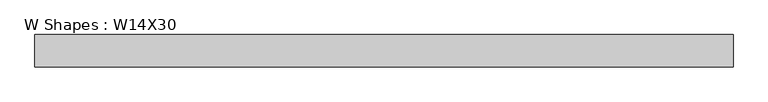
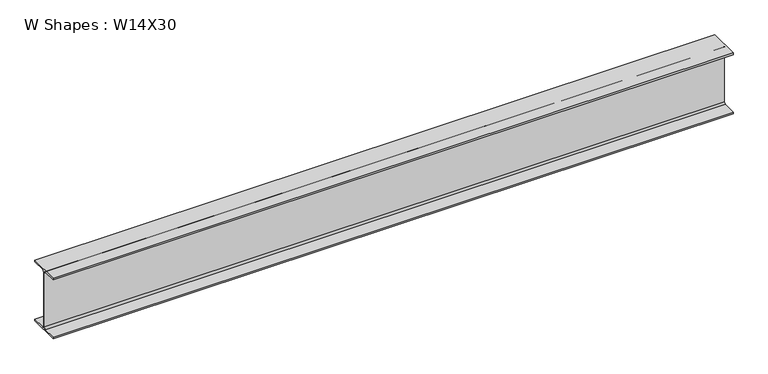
"""IFC4 building model written with IfcOpenShell, lengths in millimetres: beam geometry, W Shapes : W14X30."""

from ifc_helpers import new_model, si_unit, point, frame, frame_2d, origin, place, context, project, spatial, polyline, circle_curve, trimmed, segment, composite_curve, outline, extrude, source, transform, mapped, element, save


def w_shapes_w14x30_ed6d0ebe(model_context):
    return source(origin(), model_context, "Body", "SweptSolid", [
        extrude(outline(composite_curve([segment(polyline([(85.471, -165.354), (85.471, -175.26), (-85.471, -175.26), (-85.471, -165.354), (-13.589, -165.354)]), True, "CONTINUOUS"), segment(trimmed(circle_curve(frame_2d((-13.589, -155.194)), 10.16), [point((-13.589, -165.354))], [point((-3.429, -155.194))], True, "CARTESIAN"), True, "CONTINUOUS"), segment(polyline([(-3.429, -155.194), (-3.429, 155.194)]), True, "CONTINUOUS"), segment(trimmed(circle_curve(frame_2d((-13.589, 155.194)), 10.16), [point((-3.429, 155.194))], [point((-13.589, 165.354))], True, "CARTESIAN"), True, "CONTINUOUS"), segment(polyline([(-13.589, 165.354), (-85.471, 165.354), (-85.471, 175.26), (85.471, 175.26), (85.471, 165.354), (13.589, 165.354)]), True, "CONTINUOUS"), segment(trimmed(circle_curve(frame_2d((13.589, 155.194)), 10.16), [point((13.589, 165.354))], [point((3.429, 155.194))], True, "CARTESIAN"), True, "CONTINUOUS"), segment(polyline([(3.429, 155.194), (3.429, -155.194)]), True, "CONTINUOUS"), segment(trimmed(circle_curve(frame_2d((13.589, -155.194)), 10.16), [point((3.429, -155.194))], [point((13.589, -165.354))], True, "CARTESIAN"), True, "CONTINUOUS"), segment(polyline([(13.589, -165.354), (85.471, -165.354)]), True, "CONTINUOUS")], self_intersect=False)), frame((-1863.3023799, 0.0, 0.0), z_axis=(1.0, 0.0, 0.0), x_axis=(0.0, 1.0, 0.0)), (0.0, 0.0, 1.0), 3704.1125626),
    ])


if __name__ == "__main__":
    model = new_model("IFC4")
    model_context = context("Model", 3, world=origin())
    ifc_project = project(units=[si_unit("LENGTHUNIT", "METRE", prefix="MILLI")], contexts=[model_context])
    site = spatial("IfcSite", under=ifc_project)
    building = spatial("IfcBuilding", under=site)
    placement = place(None, origin())
    w_shapes_w14x30_shape = w_shapes_w14x30_ed6d0ebe(model_context)
    element("IfcBeam", 1, ObjectType="W Shapes : W14X30", at=placement, inside=building, context=model_context, shape_type="MappedRepresentation", body=[
        mapped(w_shapes_w14x30_shape, transform((0.0, 0.0, 0.0), x_axis=(1.0, 0.0, 0.0), y_axis=(0.0, 1.0, 0.0), z_axis=(0.0, 0.0, 1.0))),
    ])
    save(model, "model.ifc")
